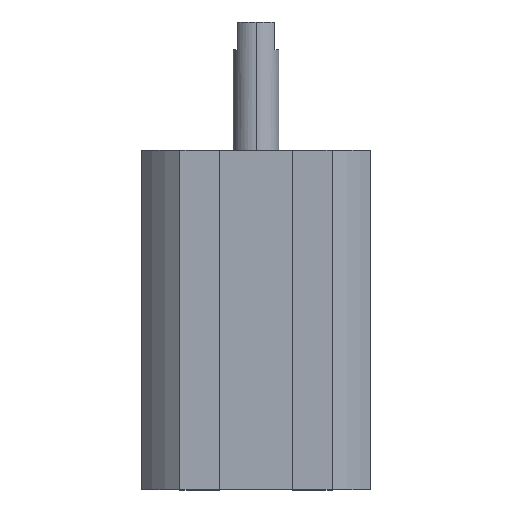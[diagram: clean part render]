
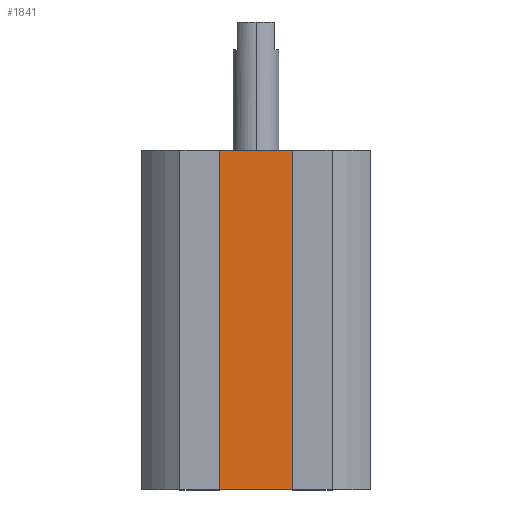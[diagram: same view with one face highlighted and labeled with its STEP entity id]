
A CAD part, top view. The second image highlights one B-rep face of the part: STEP entity #1841.
In plain terms, the highlighted planar face has unit normal (0, 0, 1).
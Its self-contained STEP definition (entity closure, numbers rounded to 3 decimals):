
#108 = VECTOR ( 'NONE', #1220, 1000. ) ;
#111 = VERTEX_POINT ( 'NONE', #795 ) ;
#176 = DIRECTION ( 'NONE',  ( 0., 1., 0. ) ) ;
#184 = PLANE ( 'NONE',  #585 ) ;
#201 = EDGE_CURVE ( 'NONE', #111, #789, #402, .T. ) ;
#249 = VERTEX_POINT ( 'NONE', #1763 ) ;
#402 = LINE ( 'NONE', #607, #2166 ) ;
#424 = ORIENTED_EDGE ( 'NONE', *, *, #1962, .T. ) ;
#585 = AXIS2_PLACEMENT_3D ( 'NONE', #1007, #1899, #1710 ) ;
#607 = CARTESIAN_POINT ( 'NONE',  ( 0., 0., 7.8 ) ) ;
#714 = CARTESIAN_POINT ( 'NONE',  ( 0., -37., 7.8 ) ) ;
#736 = ORIENTED_EDGE ( 'NONE', *, *, #1842, .T. ) ;
#757 = LINE ( 'NONE', #2056, #1952 ) ;
#789 = VERTEX_POINT ( 'NONE', #1981 ) ;
#795 = CARTESIAN_POINT ( 'NONE',  ( -4., 0., 7.8 ) ) ;
#1007 = CARTESIAN_POINT ( 'NONE',  ( 0., -37., 7.8 ) ) ;
#1220 = DIRECTION ( 'NONE',  ( 0., 1., 0. ) ) ;
#1272 = VERTEX_POINT ( 'NONE', #2181 ) ;
#1304 = EDGE_CURVE ( 'NONE', #1272, #111, #1409, .T. ) ;
#1354 = VECTOR ( 'NONE', #1390, 1000. ) ;
#1390 = DIRECTION ( 'NONE',  ( 1., 0., 0. ) ) ;
#1409 = LINE ( 'NONE', #1896, #108 ) ;
#1458 = DIRECTION ( 'NONE',  ( 1., 0., 0. ) ) ;
#1474 = ORIENTED_EDGE ( 'NONE', *, *, #201, .F. ) ;
#1710 = DIRECTION ( 'NONE',  ( 1., 0., 0. ) ) ;
#1721 = FACE_OUTER_BOUND ( 'NONE', #1844, .T. ) ;
#1763 = CARTESIAN_POINT ( 'NONE',  ( 4., -37., 7.8 ) ) ;
#1841 = ADVANCED_FACE ( 'NONE', ( #1721 ), #184, .T. ) ;
#1842 = EDGE_CURVE ( 'NONE', #249, #789, #757, .T. ) ;
#1844 = EDGE_LOOP ( 'NONE', ( #1474, #1922, #424, #736 ) ) ;
#1856 = LINE ( 'NONE', #714, #1354 ) ;
#1896 = CARTESIAN_POINT ( 'NONE',  ( -4., -37., 7.8 ) ) ;
#1899 = DIRECTION ( 'NONE',  ( 0., 0., 1. ) ) ;
#1922 = ORIENTED_EDGE ( 'NONE', *, *, #1304, .F. ) ;
#1952 = VECTOR ( 'NONE', #176, 1000. ) ;
#1962 = EDGE_CURVE ( 'NONE', #1272, #249, #1856, .T. ) ;
#1981 = CARTESIAN_POINT ( 'NONE',  ( 4., 0., 7.8 ) ) ;
#2056 = CARTESIAN_POINT ( 'NONE',  ( 4., -37., 7.8 ) ) ;
#2166 = VECTOR ( 'NONE', #1458, 1000. ) ;
#2181 = CARTESIAN_POINT ( 'NONE',  ( -4., -37., 7.8 ) ) ;
